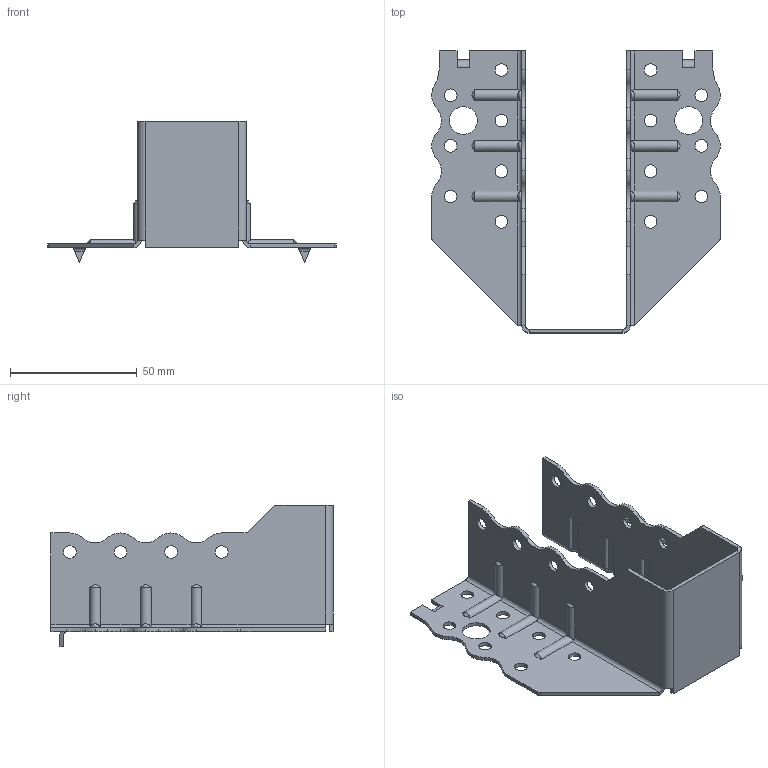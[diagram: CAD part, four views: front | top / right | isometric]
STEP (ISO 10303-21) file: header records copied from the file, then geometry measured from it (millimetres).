
FILE_DESCRIPTION (( 'STEP AP203' ), '1' );
FILE_NAME ('30601TOPK.STEP', '2021-04-08T12:55:18', ( '' ), ( '' ), 'SwSTEP 2.0', 'SolidWorks 2013', '' );
FILE_SCHEMA (( 'CONFIG_CONTROL_DESIGN' ));
Length unit declared in the file: millimetre
Products named in the file (1): 30601TOPK
Bounding box: 114 x 111.5 x 56 mm (x, y, z)
Volume: 24835.5 mm3; surface area: 35267 mm2
Topology: 1 solids, 1 shells, 263 faces, 691 edges, 430 vertices
Faces by surface type: cylinder 164, plane 75, torus 12, bspline 12
Entity records: 9602 total; most frequent: CARTESIAN_POINT 3011, ORIENTED_EDGE 1382, DIRECTION 1349, EDGE_CURVE 691, AXIS2_PLACEMENT_3D 492, VERTEX_POINT 430, VECTOR 365, LINE 365
